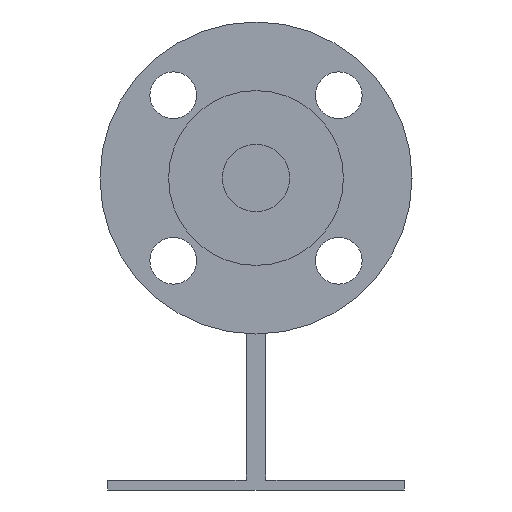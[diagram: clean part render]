
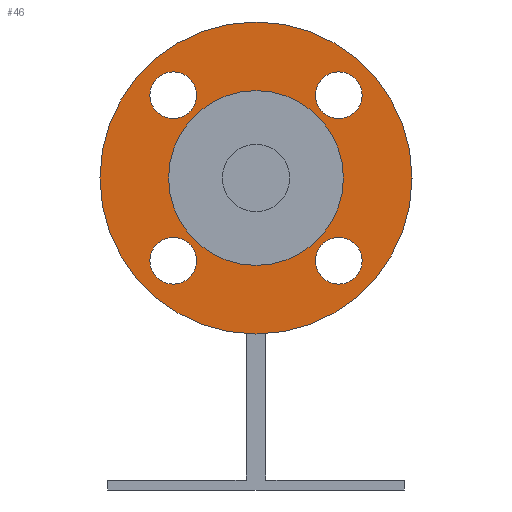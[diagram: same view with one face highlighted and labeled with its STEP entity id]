
A CAD part, left-side view. The second image highlights one B-rep face of the part: STEP entity #46.
In plain terms, the highlighted planar face has unit normal (-1, 0, 0).
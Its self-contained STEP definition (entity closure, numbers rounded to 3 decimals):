
#46=ADVANCED_FACE('',(#185,#186,#187,#188,#189,#190),#184,.T.);
#184=PLANE('',#962);
#185=FACE_OUTER_BOUND('',#963,.T.);
#186=FACE_BOUND('',#964,.T.);
#187=FACE_BOUND('',#965,.T.);
#188=FACE_BOUND('',#966,.T.);
#189=FACE_BOUND('',#967,.T.);
#190=FACE_BOUND('',#968,.T.);
#959=CARTESIAN_POINT('',(-337.4,-96.603,-110.));
#960=DIRECTION('',(-1.,0.,0.));
#961=DIRECTION('',(0.,0.,1.));
#962=AXIS2_PLACEMENT_3D('',#959,#960,#961);
#963=EDGE_LOOP('',(#1375,#1376));
#964=EDGE_LOOP('',(#1377,#1378));
#965=EDGE_LOOP('',(#1379,#1380));
#966=EDGE_LOOP('',(#1381,#1382));
#967=EDGE_LOOP('',(#1383,#1384));
#968=EDGE_LOOP('',(#1385,#1386));
#1375=ORIENTED_EDGE('',*,*,#1777,.T.);
#1376=ORIENTED_EDGE('',*,*,#1778,.T.);
#1377=ORIENTED_EDGE('',*,*,#1779,.F.);
#1378=ORIENTED_EDGE('',*,*,#1780,.F.);
#1379=ORIENTED_EDGE('',*,*,#1781,.F.);
#1380=ORIENTED_EDGE('',*,*,#1782,.F.);
#1381=ORIENTED_EDGE('',*,*,#1783,.F.);
#1382=ORIENTED_EDGE('',*,*,#1784,.F.);
#1383=ORIENTED_EDGE('',*,*,#1785,.F.);
#1384=ORIENTED_EDGE('',*,*,#1786,.F.);
#1385=ORIENTED_EDGE('',*,*,#1787,.F.);
#1386=ORIENTED_EDGE('',*,*,#1788,.F.);
#1777=EDGE_CURVE('',#2163,#2164,#2165,.T.);
#1778=EDGE_CURVE('',#2164,#2163,#2171,.T.);
#1779=EDGE_CURVE('',#2177,#2178,#2179,.T.);
#1780=EDGE_CURVE('',#2178,#2177,#2185,.T.);
#1781=EDGE_CURVE('',#2191,#2192,#2193,.T.);
#1782=EDGE_CURVE('',#2192,#2191,#2199,.T.);
#1783=EDGE_CURVE('',#2205,#2206,#2207,.T.);
#1784=EDGE_CURVE('',#2206,#2205,#2213,.T.);
#1785=EDGE_CURVE('',#2219,#2220,#2221,.T.);
#1786=EDGE_CURVE('',#2220,#2219,#2227,.T.);
#1787=EDGE_CURVE('',#2233,#2234,#2235,.T.);
#1788=EDGE_CURVE('',#2234,#2233,#2241,.T.);
#2163=VERTEX_POINT('',#3442);
#2164=VERTEX_POINT('',#3443);
#2165=CIRCLE('',#3447,50.);
#2171=CIRCLE('',#3451,50.);
#2177=VERTEX_POINT('',#3452);
#2178=VERTEX_POINT('',#3453);
#2179=CIRCLE('',#3457,7.5);
#2185=CIRCLE('',#3461,7.5);
#2191=VERTEX_POINT('',#3462);
#2192=VERTEX_POINT('',#3463);
#2193=CIRCLE('',#3467,7.5);
#2199=CIRCLE('',#3471,7.5);
#2205=VERTEX_POINT('',#3472);
#2206=VERTEX_POINT('',#3473);
#2207=CIRCLE('',#3477,7.5);
#2213=CIRCLE('',#3481,7.5);
#2219=VERTEX_POINT('',#3482);
#2220=VERTEX_POINT('',#3483);
#2221=CIRCLE('',#3487,7.5);
#2227=CIRCLE('',#3491,7.5);
#2233=VERTEX_POINT('',#3492);
#2234=VERTEX_POINT('',#3493);
#2235=CIRCLE('',#3497,28.);
#2241=CIRCLE('',#3501,28.);
#3442=CARTESIAN_POINT('',(-337.4,0.,50.));
#3443=CARTESIAN_POINT('',(-337.4,0.,-50.));
#3444=CARTESIAN_POINT('',(-337.4,0.,0.));
#3445=DIRECTION('',(-1.,0.,0.));
#3446=DIRECTION('',(0.,0.,1.));
#3447=AXIS2_PLACEMENT_3D('',#3444,#3445,#3446);
#3448=CARTESIAN_POINT('',(-337.4,0.,0.));
#3449=DIRECTION('',(-1.,0.,0.));
#3450=DIRECTION('',(0.,0.,1.));
#3451=AXIS2_PLACEMENT_3D('',#3448,#3449,#3450);
#3452=CARTESIAN_POINT('',(-337.4,-26.517,19.017));
#3453=CARTESIAN_POINT('',(-337.4,-26.517,34.017));
#3454=CARTESIAN_POINT('',(-337.4,-26.517,26.517));
#3455=DIRECTION('',(-1.,0.,0.));
#3456=DIRECTION('',(0.,0.,1.));
#3457=AXIS2_PLACEMENT_3D('',#3454,#3455,#3456);
#3458=CARTESIAN_POINT('',(-337.4,-26.517,26.517));
#3459=DIRECTION('',(-1.,0.,0.));
#3460=DIRECTION('',(0.,0.,1.));
#3461=AXIS2_PLACEMENT_3D('',#3458,#3459,#3460);
#3462=CARTESIAN_POINT('',(-337.4,26.517,19.017));
#3463=CARTESIAN_POINT('',(-337.4,26.517,34.017));
#3464=CARTESIAN_POINT('',(-337.4,26.517,26.517));
#3465=DIRECTION('',(-1.,0.,0.));
#3466=DIRECTION('',(0.,0.,1.));
#3467=AXIS2_PLACEMENT_3D('',#3464,#3465,#3466);
#3468=CARTESIAN_POINT('',(-337.4,26.517,26.517));
#3469=DIRECTION('',(-1.,0.,0.));
#3470=DIRECTION('',(0.,0.,1.));
#3471=AXIS2_PLACEMENT_3D('',#3468,#3469,#3470);
#3472=CARTESIAN_POINT('',(-337.4,26.517,-34.017));
#3473=CARTESIAN_POINT('',(-337.4,26.517,-19.017));
#3474=CARTESIAN_POINT('',(-337.4,26.517,-26.517));
#3475=DIRECTION('',(-1.,0.,0.));
#3476=DIRECTION('',(0.,0.,1.));
#3477=AXIS2_PLACEMENT_3D('',#3474,#3475,#3476);
#3478=CARTESIAN_POINT('',(-337.4,26.517,-26.517));
#3479=DIRECTION('',(-1.,0.,0.));
#3480=DIRECTION('',(0.,0.,1.));
#3481=AXIS2_PLACEMENT_3D('',#3478,#3479,#3480);
#3482=CARTESIAN_POINT('',(-337.4,-26.517,-34.017));
#3483=CARTESIAN_POINT('',(-337.4,-26.517,-19.017));
#3484=CARTESIAN_POINT('',(-337.4,-26.517,-26.517));
#3485=DIRECTION('',(-1.,0.,0.));
#3486=DIRECTION('',(0.,0.,1.));
#3487=AXIS2_PLACEMENT_3D('',#3484,#3485,#3486);
#3488=CARTESIAN_POINT('',(-337.4,-26.517,-26.517));
#3489=DIRECTION('',(-1.,0.,0.));
#3490=DIRECTION('',(0.,0.,1.));
#3491=AXIS2_PLACEMENT_3D('',#3488,#3489,#3490);
#3492=CARTESIAN_POINT('',(-337.4,0.,-28.));
#3493=CARTESIAN_POINT('',(-337.4,0.,28.));
#3494=CARTESIAN_POINT('',(-337.4,0.,0.));
#3495=DIRECTION('',(-1.,0.,0.));
#3496=DIRECTION('',(0.,0.,1.));
#3497=AXIS2_PLACEMENT_3D('',#3494,#3495,#3496);
#3498=CARTESIAN_POINT('',(-337.4,0.,0.));
#3499=DIRECTION('',(-1.,0.,0.));
#3500=DIRECTION('',(0.,0.,1.));
#3501=AXIS2_PLACEMENT_3D('',#3498,#3499,#3500);
